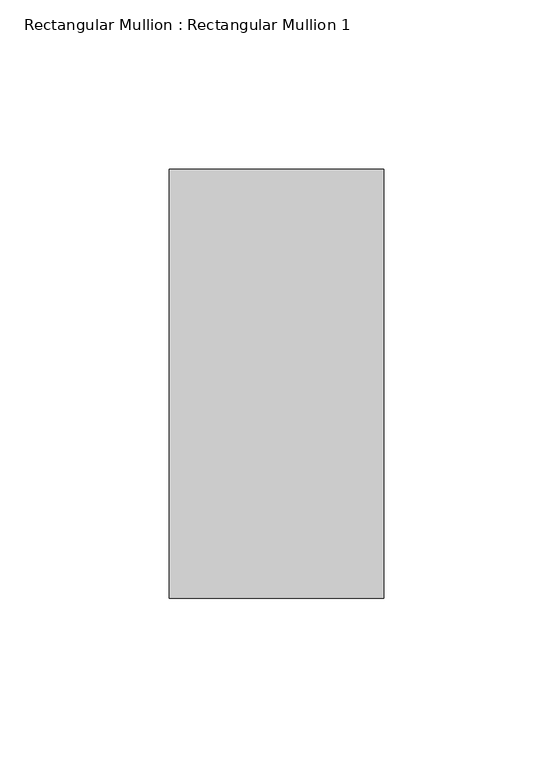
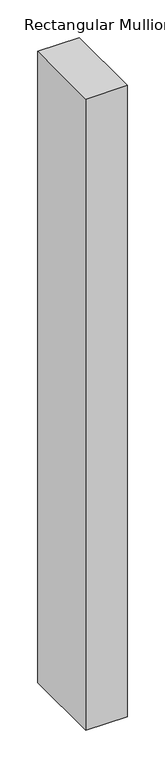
"""IFC4 building model written with IfcOpenShell, lengths in millimetres: member geometry, Rectangular Mullion : Rectangular Mullion 1."""

from ifc_helpers import new_model, si_unit, frame, origin, place, context, project, spatial, polyline, outline, extrude, source, transform, mapped, element, save


def rectangular_mullion_rectangular_mullion_1_7df0f936(model_context):
    return source(origin(), model_context, "Body", "SweptSolid", [
        extrude(outline(polyline([(31.75, 63.5), (31.75, -63.5), (-31.75, -63.5), (-31.75, 63.5), (31.75, 63.5)])), frame((0.0, 0.0, -1021.4428571), z_axis=(0.0, 0.0, 1.0), x_axis=(1.0, 0.0, 0.0)), (0.0, 0.0, 1.0), 1021.4428571),
    ])


if __name__ == "__main__":
    model = new_model("IFC4")
    model_context = context("Model", 3, world=origin())
    ifc_project = project(units=[si_unit("LENGTHUNIT", "METRE", prefix="MILLI")], contexts=[model_context])
    site = spatial("IfcSite", under=ifc_project)
    building = spatial("IfcBuilding", under=site)
    placement = place(None, origin())
    rectangular_mullion_rectangular_mullion_1_shape = rectangular_mullion_rectangular_mullion_1_7df0f936(model_context)
    element("IfcMember", 1, ObjectType="Rectangular Mullion : Rectangular Mullion 1", at=placement, inside=building, context=model_context, shape_type="MappedRepresentation", body=[
        mapped(rectangular_mullion_rectangular_mullion_1_shape, transform((0.0, 0.0, 0.0), x_axis=(1.0, 0.0, 0.0), y_axis=(0.0, 1.0, 0.0), z_axis=(0.0, 0.0, 1.0))),
    ])
    save(model, "model.ifc")
